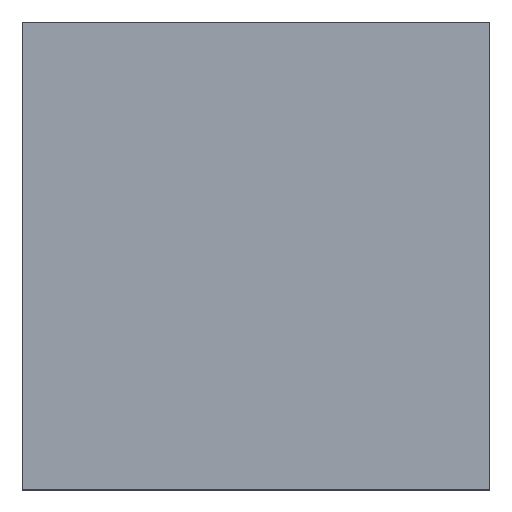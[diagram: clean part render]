
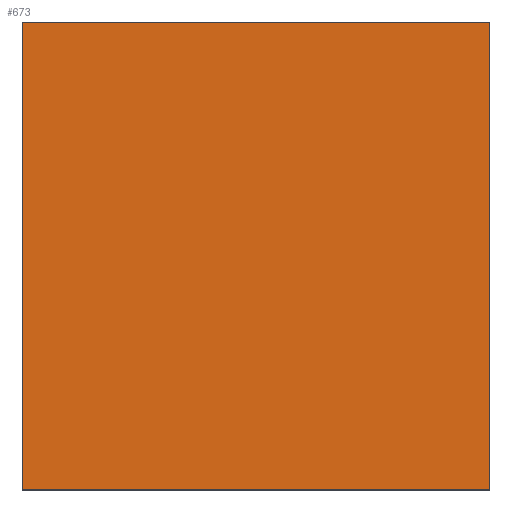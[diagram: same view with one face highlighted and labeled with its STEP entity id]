
A CAD part, top view. The second image highlights one B-rep face of the part: STEP entity #673.
In plain terms, the highlighted planar face has unit normal (0, 0, 1).
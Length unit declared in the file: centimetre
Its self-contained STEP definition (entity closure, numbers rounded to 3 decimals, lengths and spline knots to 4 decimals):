
#13 = DIRECTION ( 'NONE',  ( 1., 0., 0. ) ) ;
#32 = CARTESIAN_POINT ( 'NONE',  ( 0., 0., 1000. ) ) ;
#33 = EDGE_CURVE ( 'NONE', #250, #658, #781, .T. ) ;
#38 = VECTOR ( 'NONE', #13, 100. ) ;
#49 = DIRECTION ( 'NONE',  ( 0., -1., 0. ) ) ;
#52 = VECTOR ( 'NONE', #137, 100. ) ;
#54 = VERTEX_POINT ( 'NONE', #216 ) ;
#73 = DIRECTION ( 'NONE',  ( 0., 1., 0. ) ) ;
#133 = VECTOR ( 'NONE', #73, 100. ) ;
#137 = DIRECTION ( 'NONE',  ( -1., 0., 0. ) ) ;
#139 = CARTESIAN_POINT ( 'NONE',  ( 1000., 1000., 1000. ) ) ;
#151 = EDGE_CURVE ( 'NONE', #54, #250, #755, .T. ) ;
#159 = FACE_OUTER_BOUND ( 'NONE', #251, .T. ) ;
#168 = EDGE_CURVE ( 'NONE', #658, #573, #382, .T. ) ;
#216 = CARTESIAN_POINT ( 'NONE',  ( 0., 1000., 1000. ) ) ;
#231 = DIRECTION ( 'NONE',  ( 0., 0., 1. ) ) ;
#250 = VERTEX_POINT ( 'NONE', #369 ) ;
#251 = EDGE_LOOP ( 'NONE', ( #587, #565, #768, #607 ) ) ;
#331 = LINE ( 'NONE', #460, #52 ) ;
#369 = CARTESIAN_POINT ( 'NONE',  ( 0., 0., 1000. ) ) ;
#382 = LINE ( 'NONE', #691, #133 ) ;
#384 = EDGE_CURVE ( 'NONE', #573, #54, #331, .T. ) ;
#400 = CARTESIAN_POINT ( 'NONE',  ( 0., 0., 1000. ) ) ;
#460 = CARTESIAN_POINT ( 'NONE',  ( 0., 1000., 1000. ) ) ;
#476 = CARTESIAN_POINT ( 'NONE',  ( 1000., 0., 1000. ) ) ;
#481 = PLANE ( 'NONE',  #780 ) ;
#565 = ORIENTED_EDGE ( 'NONE', *, *, #33, .T. ) ;
#573 = VERTEX_POINT ( 'NONE', #139 ) ;
#587 = ORIENTED_EDGE ( 'NONE', *, *, #151, .T. ) ;
#607 = ORIENTED_EDGE ( 'NONE', *, *, #384, .T. ) ;
#658 = VERTEX_POINT ( 'NONE', #476 ) ;
#673 = ADVANCED_FACE ( 'NONE', ( #159 ), #481, .T. ) ;
#691 = CARTESIAN_POINT ( 'NONE',  ( 1000., 1000., 1000. ) ) ;
#733 = DIRECTION ( 'NONE',  ( 1., 0., 0. ) ) ;
#755 = LINE ( 'NONE', #760, #794 ) ;
#760 = CARTESIAN_POINT ( 'NONE',  ( 0., 1000., 1000. ) ) ;
#768 = ORIENTED_EDGE ( 'NONE', *, *, #168, .T. ) ;
#780 = AXIS2_PLACEMENT_3D ( 'NONE', #32, #231, #733 ) ;
#781 = LINE ( 'NONE', #400, #38 ) ;
#794 = VECTOR ( 'NONE', #49, 100. ) ;
